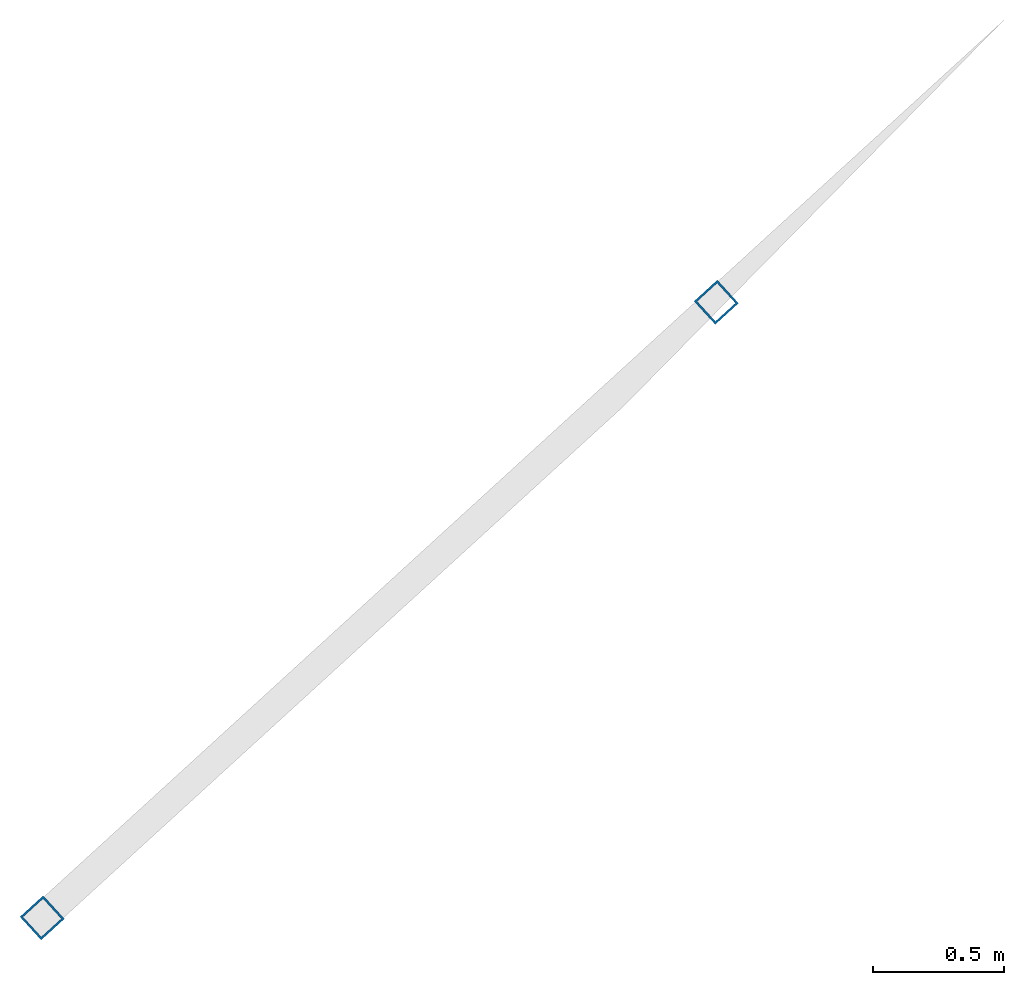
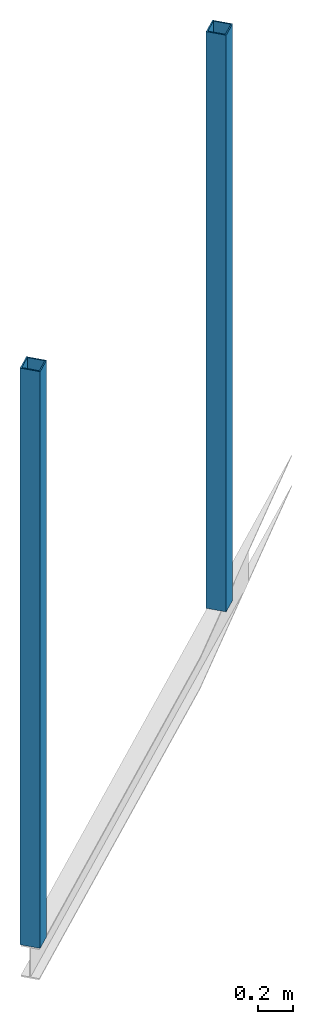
# One storey, part 1 of 2: 2 columns.
"""IFC2X3 building model written with IfcOpenShell, lengths in millimetres."""

from ifc_helpers import new_model, entity, si_unit, converted_unit, derived_unit, direction, frame, origin, origin_with_axes, place, context, subcontext, project, spatial, polyline, outline, extrude, source, transform, mapped, material, type_object, element, save


model = new_model("IFC2X3")

# Units and contexts
model_context = context("Model", 3, precision=0.01, world=origin(), true_north=direction((6.12323399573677e-17, 1.0)))
plan_context = context("Plan", 3, precision=1e-05, world=origin_with_axes())
body_context = subcontext(model_context, "Body", "Model", "MODEL_VIEW")
ifc_project = project(units=[converted_unit("PLANEANGLEUNIT", "DEGREE", entity("IfcPositiveLengthMeasure", 0.0174532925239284), si_unit("PLANEANGLEUNIT", "RADIAN"), dimensions=[0, 0, 0, 0, 0, 0, 0]), si_unit("AREAUNIT", "SQUARE_METRE"), si_unit("LENGTHUNIT", "METRE", prefix="MILLI"), si_unit("MASSUNIT", "GRAM", prefix="KILO"), si_unit("POWERUNIT", "WATT"), si_unit("PRESSUREUNIT", "PASCAL", prefix="KILO"), si_unit("FORCEUNIT", "NEWTON", prefix="KILO"), si_unit("ELECTRICVOLTAGEUNIT", "VOLT"), si_unit("ELECTRICCURRENTUNIT", "AMPERE"), si_unit("THERMODYNAMICTEMPERATUREUNIT", "DEGREE_CELSIUS"), si_unit("TIMEUNIT", "SECOND"), si_unit("VOLUMEUNIT", "CUBIC_METRE"), derived_unit("LINEARVELOCITYUNIT", [(si_unit("LENGTHUNIT", "METRE"), 1), (si_unit("TIMEUNIT", "SECOND"), -1)]), derived_unit("VOLUMETRICFLOWRATEUNIT", [(si_unit("VOLUMEUNIT", "CUBIC_METRE"), 1), (si_unit("TIMEUNIT", "SECOND"), -1)]), derived_unit("THERMALTRANSMITTANCEUNIT", [(si_unit("POWERUNIT", "WATT"), 1), (si_unit("THERMODYNAMICTEMPERATUREUNIT", "KELVIN"), -1), (si_unit("AREAUNIT", "SQUARE_METRE"), -1)]), derived_unit("SOUNDPRESSUREUNIT", [(si_unit("PRESSUREUNIT", "PASCAL"), 1)])], contexts=[model_context, plan_context])

# Site, building, storey
site_placement = place(None, frame((0.0, 0.0, 0.0), z_axis=(0.0, 0.0, 1.0), x_axis=(0.214787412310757, -0.97666082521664, 0.0)))
site = spatial("IfcSite", under=ifc_project, at=site_placement, Name="Default", CompositionType="ELEMENT")
building_placement = place(site_placement, origin_with_axes())
building = spatial("IfcBuilding", under=site, at=building_placement, CompositionType="ELEMENT")
storey_placement = place(building_placement, frame((0.0, 0.0, 9300.0), z_axis=(0.0, 0.0, 1.0), x_axis=(1.0, 0.0, 0.0)))
storey = spatial("IfcBuildingStorey", under=building, at=storey_placement, Name="2. ETASJE", CompositionType="ELEMENT", Elevation=9299.99999999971)

# Columns
ifc_material = material(Name="Stål - S355J")
column_type = type_object("IfcColumnType", Name="NO_Column_Steel_Hollow Rectangular:RHS 120x120x8", PredefinedType="COLUMN", material=ifc_material)
shared_shape = source(origin(), body_context, "Body", "SweptSolid", [
    extrude(outline(polyline([(-60.0, -60.0), (60.0, -60.0), (60.0, 60.0), (-60.0, 60.0), (-60.0, -60.0)]), holes=[polyline([(-52.0, -52.0), (-52.0, 52.0), (52.0, 52.0), (52.0, -52.0), (-52.0, -52.0)])]), frame((0.0, 0.0, 9060.0), z_axis=(0.0, 0.0, 1.0), x_axis=(-1.0, 0.0, 0.0)), (0.0, 0.0, 1.0), 3992.0),
])
for number, where, z_axis, x_axis, name in (
    (1, (-63597.8728076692, 292993.846004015, -9300.0), (0.0, 0.0, 1.0), (0.866025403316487, 0.500000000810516, 0.0), "NO_Column_Steel_Hollow Rectangular:RHS 120x120x8"),
    (2, (-61852.8728045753, 289971.417346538, -9300.0), (0.0, 0.0, 1.0), (0.866025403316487, 0.500000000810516, 0.0), "NO_Column_Steel_Hollow Rectangular:RHS 120x120x8"),
):
    element("IfcColumn", number, at=place(storey_placement, frame(where, z_axis=z_axis, x_axis=x_axis)), inside=storey, type_object=column_type, material=ifc_material, Name=name, ObjectType="NO_Column_Steel_Hollow Rectangular:RHS 120x120x8", context=body_context, shape_type="MappedRepresentation", body=[
        mapped(shared_shape, transform((0.0, 0.0, 0.0), scale=1.0)),
    ])

save(model, "model.ifc")
